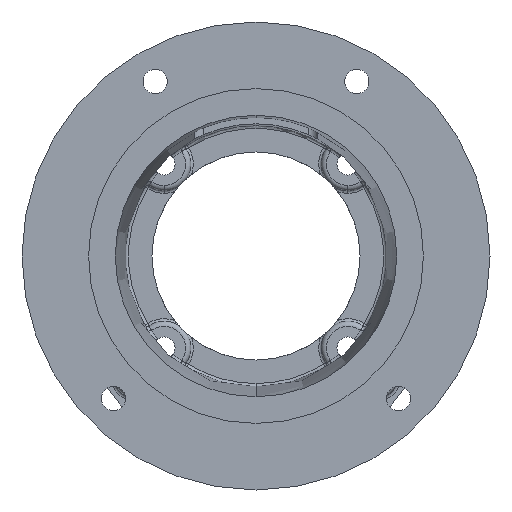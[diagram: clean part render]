
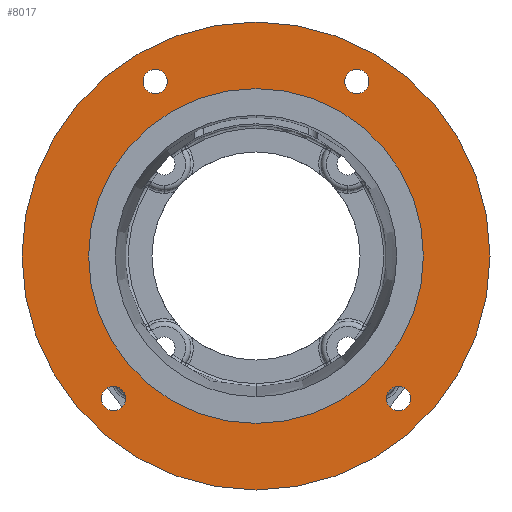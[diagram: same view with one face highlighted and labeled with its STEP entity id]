
A CAD part, front view. The second image highlights one B-rep face of the part: STEP entity #8017.
In plain terms, the highlighted planar face has unit normal (0, -1, 0).
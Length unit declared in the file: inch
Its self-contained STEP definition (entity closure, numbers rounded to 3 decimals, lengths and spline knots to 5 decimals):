
#59 = AXIS2_PLACEMENT_3D ( 'NONE', #9169, #10257, #9246 ) ;
#120 = AXIS2_PLACEMENT_3D ( 'NONE', #8406, #2633, #9395 ) ;
#182 = CARTESIAN_POINT ( 'NONE',  ( -1.9375, 0., 3.59022 ) ) ;
#558 = EDGE_CURVE ( 'NONE', #9508, #6820, #11409, .T. ) ;
#596 = AXIS2_PLACEMENT_3D ( 'NONE', #6895, #5965, #2149 ) ;
#629 = DIRECTION ( 'NONE',  ( 0., -1., 0. ) ) ;
#707 = CARTESIAN_POINT ( 'NONE',  ( 0., 0., 4.5 ) ) ;
#874 = FACE_OUTER_BOUND ( 'NONE', #6139, .T. ) ;
#935 = EDGE_CURVE ( 'NONE', #7946, #6187, #4303, .T. ) ;
#985 = EDGE_CURVE ( 'NONE', #6016, #12278, #11271, .T. ) ;
#1070 = EDGE_LOOP ( 'NONE', ( #11579, #2343 ) ) ;
#1119 = AXIS2_PLACEMENT_3D ( 'NONE', #6657, #6649, #6636 ) ;
#1204 = EDGE_LOOP ( 'NONE', ( #11815, #9199 ) ) ;
#1821 = EDGE_CURVE ( 'NONE', #8957, #11192, #10711, .T. ) ;
#2075 = CIRCLE ( 'NONE', #7615, 0.23438 ) ;
#2149 = DIRECTION ( 'NONE',  ( 0., 0., -1. ) ) ;
#2343 = ORIENTED_EDGE ( 'NONE', *, *, #985, .F. ) ;
#2396 = AXIS2_PLACEMENT_3D ( 'NONE', #9175, #3390, #10109 ) ;
#2633 = DIRECTION ( 'NONE',  ( 0., -1., 0. ) ) ;
#2636 = EDGE_CURVE ( 'NONE', #11192, #8957, #4411, .T. ) ;
#2757 = ORIENTED_EDGE ( 'NONE', *, *, #2636, .F. ) ;
#2939 = DIRECTION ( 'NONE',  ( 0., 1., 0. ) ) ;
#2973 = ORIENTED_EDGE ( 'NONE', *, *, #10136, .T. ) ;
#3011 = CIRCLE ( 'NONE', #120, 4.5 ) ;
#3051 = CARTESIAN_POINT ( 'NONE',  ( 1.9375, 0., 3.59022 ) ) ;
#3118 = DIRECTION ( 'NONE',  ( 0., 0., -1. ) ) ;
#3121 = DIRECTION ( 'NONE',  ( 0., -1., 0. ) ) ;
#3130 = CARTESIAN_POINT ( 'NONE',  ( -1.9375, 0., 3.35585 ) ) ;
#3390 = DIRECTION ( 'NONE',  ( 0., -1., 0. ) ) ;
#3447 = FACE_BOUND ( 'NONE', #6859, .T. ) ;
#3457 = DIRECTION ( 'NONE',  ( 0., 0., -1. ) ) ;
#3470 = DIRECTION ( 'NONE',  ( 0., -1., 0. ) ) ;
#3479 = CARTESIAN_POINT ( 'NONE',  ( 1.9375, 0., 3.35585 ) ) ;
#3612 = CARTESIAN_POINT ( 'NONE',  ( 0., 0., -3.2195 ) ) ;
#3737 = FACE_BOUND ( 'NONE', #1204, .T. ) ;
#3758 = EDGE_CURVE ( 'NONE', #6820, #9508, #9384, .T. ) ;
#3790 = CIRCLE ( 'NONE', #6758, 4.5 ) ;
#3822 = AXIS2_PLACEMENT_3D ( 'NONE', #9571, #9547, #9530 ) ;
#4011 = ORIENTED_EDGE ( 'NONE', *, *, #1821, .F. ) ;
#4213 = EDGE_CURVE ( 'NONE', #12050, #8207, #6640, .T. ) ;
#4303 = CIRCLE ( 'NONE', #8015, 0.23438 ) ;
#4411 = CIRCLE ( 'NONE', #8920, 3.2195 ) ;
#4640 = CARTESIAN_POINT ( 'NONE',  ( 2.74004, 0., -2.50566 ) ) ;
#4801 = EDGE_CURVE ( 'NONE', #12278, #6016, #12159, .T. ) ;
#4826 = PLANE ( 'NONE',  #7957 ) ;
#5112 = DIRECTION ( 'NONE',  ( 0., 0., -1. ) ) ;
#5164 = DIRECTION ( 'NONE',  ( 0., -1., 0. ) ) ;
#5209 = CARTESIAN_POINT ( 'NONE',  ( -1.9375, 0., 3.35585 ) ) ;
#5303 = CARTESIAN_POINT ( 'NONE',  ( -2.74004, 0., -2.50566 ) ) ;
#5358 = CARTESIAN_POINT ( 'NONE',  ( 0., 0., 0. ) ) ;
#5596 = CARTESIAN_POINT ( 'NONE',  ( 1.9375, 0., 3.12147 ) ) ;
#5715 = CARTESIAN_POINT ( 'NONE',  ( -4.5, 0., 0. ) ) ;
#5819 = CARTESIAN_POINT ( 'NONE',  ( 0., 0., -4.5 ) ) ;
#5965 = DIRECTION ( 'NONE',  ( 0., -1., 0. ) ) ;
#5977 = FACE_BOUND ( 'NONE', #6592, .T. ) ;
#6016 = VERTEX_POINT ( 'NONE', #182 ) ;
#6139 = EDGE_LOOP ( 'NONE', ( #11055, #2973 ) ) ;
#6187 = VERTEX_POINT ( 'NONE', #3051 ) ;
#6329 = DIRECTION ( 'NONE',  ( 0., 0., -1. ) ) ;
#6406 = CARTESIAN_POINT ( 'NONE',  ( 2.74004, 0., -2.74004 ) ) ;
#6592 = EDGE_LOOP ( 'NONE', ( #10930, #9584 ) ) ;
#6636 = DIRECTION ( 'NONE',  ( 0., 0., -1. ) ) ;
#6640 = CIRCLE ( 'NONE', #59, 0.23438 ) ;
#6649 = DIRECTION ( 'NONE',  ( 0., -1., 0. ) ) ;
#6657 = CARTESIAN_POINT ( 'NONE',  ( -2.74004, 0., -2.74004 ) ) ;
#6758 = AXIS2_PLACEMENT_3D ( 'NONE', #5358, #11938, #6329 ) ;
#6820 = VERTEX_POINT ( 'NONE', #7034 ) ;
#6859 = EDGE_LOOP ( 'NONE', ( #4011, #2757 ) ) ;
#6895 = CARTESIAN_POINT ( 'NONE',  ( -2.74004, 0., -2.74004 ) ) ;
#6902 = CARTESIAN_POINT ( 'NONE',  ( -1.9375, 0., 3.12147 ) ) ;
#6979 = EDGE_CURVE ( 'NONE', #8207, #12050, #2075, .T. ) ;
#7034 = CARTESIAN_POINT ( 'NONE',  ( -2.74004, 0., -2.97441 ) ) ;
#7203 = CARTESIAN_POINT ( 'NONE',  ( 0., 0., 3.2195 ) ) ;
#7384 = DIRECTION ( 'NONE',  ( 0., 0., -1. ) ) ;
#7398 = DIRECTION ( 'NONE',  ( 0., 0., -1. ) ) ;
#7615 = AXIS2_PLACEMENT_3D ( 'NONE', #6406, #629, #7384 ) ;
#7714 = DIRECTION ( 'NONE',  ( 0., -1., 0. ) ) ;
#7889 = CARTESIAN_POINT ( 'NONE',  ( 0., 0., 0. ) ) ;
#7946 = VERTEX_POINT ( 'NONE', #5596 ) ;
#7957 = AXIS2_PLACEMENT_3D ( 'NONE', #5715, #2939, #9694 ) ;
#8015 = AXIS2_PLACEMENT_3D ( 'NONE', #3479, #3470, #3457 ) ;
#8017 = ADVANCED_FACE ( 'NONE', ( #11038, #3737, #8562, #5977, #3447, #874 ), #4826, .F. ) ;
#8126 = EDGE_LOOP ( 'NONE', ( #8197, #12078 ) ) ;
#8197 = ORIENTED_EDGE ( 'NONE', *, *, #6979, .F. ) ;
#8207 = VERTEX_POINT ( 'NONE', #10878 ) ;
#8398 = VERTEX_POINT ( 'NONE', #707 ) ;
#8406 = CARTESIAN_POINT ( 'NONE',  ( 0., 0., 0. ) ) ;
#8472 = CIRCLE ( 'NONE', #2396, 0.23438 ) ;
#8562 = FACE_BOUND ( 'NONE', #8126, .T. ) ;
#8920 = AXIS2_PLACEMENT_3D ( 'NONE', #7889, #7714, #7398 ) ;
#8957 = VERTEX_POINT ( 'NONE', #3612 ) ;
#9169 = CARTESIAN_POINT ( 'NONE',  ( 2.74004, 0., -2.74004 ) ) ;
#9175 = CARTESIAN_POINT ( 'NONE',  ( 1.9375, 0., 3.35585 ) ) ;
#9199 = ORIENTED_EDGE ( 'NONE', *, *, #9255, .F. ) ;
#9246 = DIRECTION ( 'NONE',  ( 0., 0., -1. ) ) ;
#9255 = EDGE_CURVE ( 'NONE', #6187, #7946, #8472, .T. ) ;
#9384 = CIRCLE ( 'NONE', #596, 0.23438 ) ;
#9395 = DIRECTION ( 'NONE',  ( 0., 0., -1. ) ) ;
#9508 = VERTEX_POINT ( 'NONE', #5303 ) ;
#9530 = DIRECTION ( 'NONE',  ( 0., 0., -1. ) ) ;
#9547 = DIRECTION ( 'NONE',  ( 0., -1., 0. ) ) ;
#9571 = CARTESIAN_POINT ( 'NONE',  ( 0., 0., 0. ) ) ;
#9584 = ORIENTED_EDGE ( 'NONE', *, *, #558, .F. ) ;
#9694 = DIRECTION ( 'NONE',  ( 0., 0., 1. ) ) ;
#10109 = DIRECTION ( 'NONE',  ( 0., 0., -1. ) ) ;
#10136 = EDGE_CURVE ( 'NONE', #8398, #10562, #3011, .T. ) ;
#10257 = DIRECTION ( 'NONE',  ( 0., -1., 0. ) ) ;
#10562 = VERTEX_POINT ( 'NONE', #5819 ) ;
#10711 = CIRCLE ( 'NONE', #3822, 3.2195 ) ;
#10769 = AXIS2_PLACEMENT_3D ( 'NONE', #5209, #5164, #5112 ) ;
#10798 = EDGE_CURVE ( 'NONE', #10562, #8398, #3790, .T. ) ;
#10878 = CARTESIAN_POINT ( 'NONE',  ( 2.74004, 0., -2.97441 ) ) ;
#10930 = ORIENTED_EDGE ( 'NONE', *, *, #3758, .F. ) ;
#11038 = FACE_BOUND ( 'NONE', #1070, .T. ) ;
#11055 = ORIENTED_EDGE ( 'NONE', *, *, #10798, .T. ) ;
#11192 = VERTEX_POINT ( 'NONE', #7203 ) ;
#11271 = CIRCLE ( 'NONE', #12306, 0.23438 ) ;
#11409 = CIRCLE ( 'NONE', #1119, 0.23438 ) ;
#11579 = ORIENTED_EDGE ( 'NONE', *, *, #4801, .F. ) ;
#11815 = ORIENTED_EDGE ( 'NONE', *, *, #935, .F. ) ;
#11938 = DIRECTION ( 'NONE',  ( 0., -1., 0. ) ) ;
#12050 = VERTEX_POINT ( 'NONE', #4640 ) ;
#12078 = ORIENTED_EDGE ( 'NONE', *, *, #4213, .F. ) ;
#12159 = CIRCLE ( 'NONE', #10769, 0.23438 ) ;
#12278 = VERTEX_POINT ( 'NONE', #6902 ) ;
#12306 = AXIS2_PLACEMENT_3D ( 'NONE', #3130, #3121, #3118 ) ;
